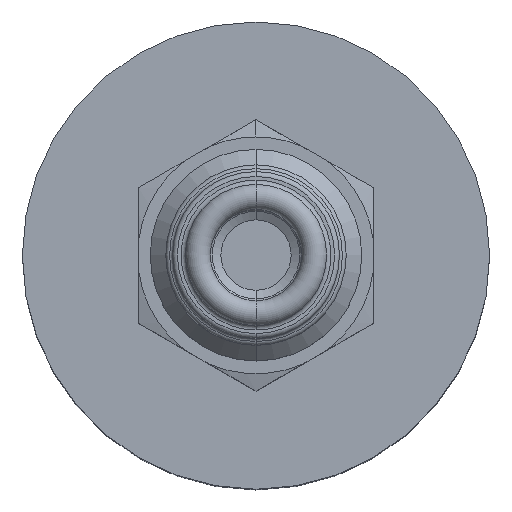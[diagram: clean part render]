
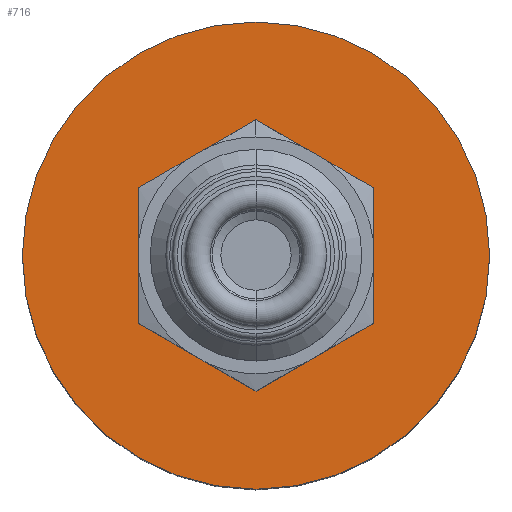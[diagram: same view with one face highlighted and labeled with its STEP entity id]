
A CAD part, top view. The second image highlights one B-rep face of the part: STEP entity #716.
In plain terms, the highlighted planar face has unit normal (0, 0, 1).
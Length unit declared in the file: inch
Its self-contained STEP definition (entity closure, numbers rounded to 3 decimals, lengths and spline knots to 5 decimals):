
#25 = VERTEX_POINT ( 'NONE', #704 ) ;
#27 = EDGE_CURVE ( 'NONE', #28, #25, #703, .T. ) ;
#28 = VERTEX_POINT ( 'NONE', #698 ) ;
#74 = ORIENTED_EDGE ( 'NONE', *, *, #483, .T. ) ;
#75 = ORIENTED_EDGE ( 'NONE', *, *, #532, .T. ) ;
#174 = EDGE_CURVE ( 'NONE', #25, #28, #883, .T. ) ;
#175 = EDGE_LOOP ( 'NONE', ( #176, #177, #178, #179, #74, #75 ) ) ;
#176 = ORIENTED_EDGE ( 'NONE', *, *, #426, .T. ) ;
#177 = ORIENTED_EDGE ( 'NONE', *, *, #502, .T. ) ;
#178 = ORIENTED_EDGE ( 'NONE', *, *, #348, .T. ) ;
#179 = ORIENTED_EDGE ( 'NONE', *, *, #362, .T. ) ;
#346 = VERTEX_POINT ( 'NONE', #1281 ) ;
#348 = EDGE_CURVE ( 'NONE', #500, #346, #1280, .T. ) ;
#360 = VERTEX_POINT ( 'NONE', #1256 ) ;
#362 = EDGE_CURVE ( 'NONE', #346, #360, #1255, .T. ) ;
#426 = EDGE_CURVE ( 'NONE', #530, #503, #1348, .T. ) ;
#481 = VERTEX_POINT ( 'NONE', #1550 ) ;
#483 = EDGE_CURVE ( 'NONE', #360, #481, #1400, .T. ) ;
#500 = VERTEX_POINT ( 'NONE', #1795 ) ;
#502 = EDGE_CURVE ( 'NONE', #503, #500, #1794, .T. ) ;
#503 = VERTEX_POINT ( 'NONE', #1790 ) ;
#530 = VERTEX_POINT ( 'NONE', #1727 ) ;
#532 = EDGE_CURVE ( 'NONE', #481, #530, #1726, .T. ) ;
#698 = CARTESIAN_POINT ( 'NONE',  ( 0.6215, 0., -0.923 ) ) ;
#699 = DIRECTION ( 'NONE',  ( 1., 0., 0. ) ) ;
#700 = DIRECTION ( 'NONE',  ( 0., 0., 1. ) ) ;
#701 = CARTESIAN_POINT ( 'NONE',  ( 0., 0., -0.923 ) ) ;
#702 = AXIS2_PLACEMENT_3D ( 'NONE', #701, #700, #699 ) ;
#703 = CIRCLE ( 'NONE', #702, 0.6215 ) ;
#704 = CARTESIAN_POINT ( 'NONE',  ( -0.6215, 0., -0.923 ) ) ;
#716 = ADVANCED_FACE ( 'NONE', ( #1657, #1656 ), #1661, .F. ) ;
#717 = ORIENTED_EDGE ( 'NONE', *, *, #27, .T. ) ;
#718 = ORIENTED_EDGE ( 'NONE', *, *, #174, .T. ) ;
#799 = EDGE_LOOP ( 'NONE', ( #717, #718 ) ) ;
#879 = DIRECTION ( 'NONE',  ( 1., 0., 0. ) ) ;
#880 = DIRECTION ( 'NONE',  ( 0., 0., 1. ) ) ;
#881 = CARTESIAN_POINT ( 'NONE',  ( 0., 0., -0.923 ) ) ;
#882 = AXIS2_PLACEMENT_3D ( 'NONE', #881, #880, #879 ) ;
#883 = CIRCLE ( 'NONE', #882, 0.6215 ) ;
#1252 = DIRECTION ( 'NONE',  ( 0.866, 0.5, 0. ) ) ;
#1253 = VECTOR ( 'NONE', #1252, 39.37008 ) ;
#1254 = CARTESIAN_POINT ( 'NONE',  ( -0.3125, 0.18042, -0.923 ) ) ;
#1255 = LINE ( 'NONE', #1254, #1253 ) ;
#1256 = CARTESIAN_POINT ( 'NONE',  ( 0., 0.36084, -0.923 ) ) ;
#1277 = DIRECTION ( 'NONE',  ( 0., 1., 0. ) ) ;
#1278 = VECTOR ( 'NONE', #1277, 39.37008 ) ;
#1279 = CARTESIAN_POINT ( 'NONE',  ( -0.3125, -0.18042, -0.923 ) ) ;
#1280 = LINE ( 'NONE', #1279, #1278 ) ;
#1281 = CARTESIAN_POINT ( 'NONE',  ( -0.3125, 0.18042, -0.923 ) ) ;
#1348 = LINE ( 'NONE', #1541, #1540 ) ;
#1397 = DIRECTION ( 'NONE',  ( 0.866, -0.5, 0. ) ) ;
#1398 = VECTOR ( 'NONE', #1397, 39.37008 ) ;
#1399 = CARTESIAN_POINT ( 'NONE',  ( 0., 0.36084, -0.923 ) ) ;
#1400 = LINE ( 'NONE', #1399, #1398 ) ;
#1539 = DIRECTION ( 'NONE',  ( -0.866, -0.5, 0. ) ) ;
#1540 = VECTOR ( 'NONE', #1539, 39.37008 ) ;
#1541 = CARTESIAN_POINT ( 'NONE',  ( 0.3125, -0.18042, -0.923 ) ) ;
#1550 = CARTESIAN_POINT ( 'NONE',  ( 0.3125, 0.18042, -0.923 ) ) ;
#1652 = DIRECTION ( 'NONE',  ( -1., 0., 0. ) ) ;
#1653 = DIRECTION ( 'NONE',  ( 0., 0., -1. ) ) ;
#1654 = CARTESIAN_POINT ( 'NONE',  ( 0., 0., -0.923 ) ) ;
#1655 = AXIS2_PLACEMENT_3D ( 'NONE', #1654, #1653, #1652 ) ;
#1656 = FACE_BOUND ( 'NONE', #175, .T. ) ;
#1657 = FACE_OUTER_BOUND ( 'NONE', #799, .T. ) ;
#1661 = PLANE ( 'NONE',  #1655 ) ;
#1723 = DIRECTION ( 'NONE',  ( 0., -1., 0. ) ) ;
#1724 = VECTOR ( 'NONE', #1723, 39.37008 ) ;
#1725 = CARTESIAN_POINT ( 'NONE',  ( 0.3125, 0.18042, -0.923 ) ) ;
#1726 = LINE ( 'NONE', #1725, #1724 ) ;
#1727 = CARTESIAN_POINT ( 'NONE',  ( 0.3125, -0.18042, -0.923 ) ) ;
#1790 = CARTESIAN_POINT ( 'NONE',  ( 0., -0.36084, -0.923 ) ) ;
#1791 = DIRECTION ( 'NONE',  ( -0.866, 0.5, 0. ) ) ;
#1792 = VECTOR ( 'NONE', #1791, 39.37008 ) ;
#1793 = CARTESIAN_POINT ( 'NONE',  ( 0., -0.36084, -0.923 ) ) ;
#1794 = LINE ( 'NONE', #1793, #1792 ) ;
#1795 = CARTESIAN_POINT ( 'NONE',  ( -0.3125, -0.18042, -0.923 ) ) ;
